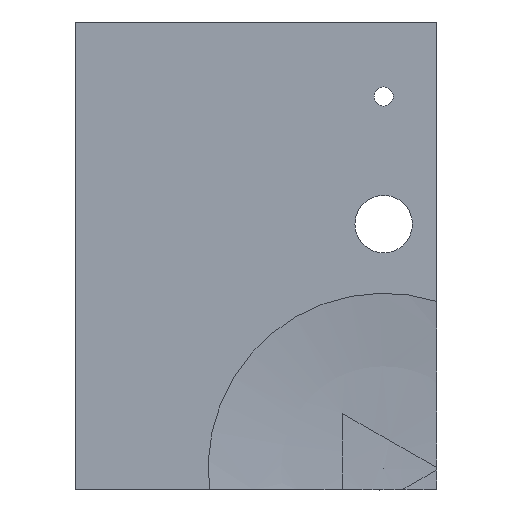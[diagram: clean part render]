
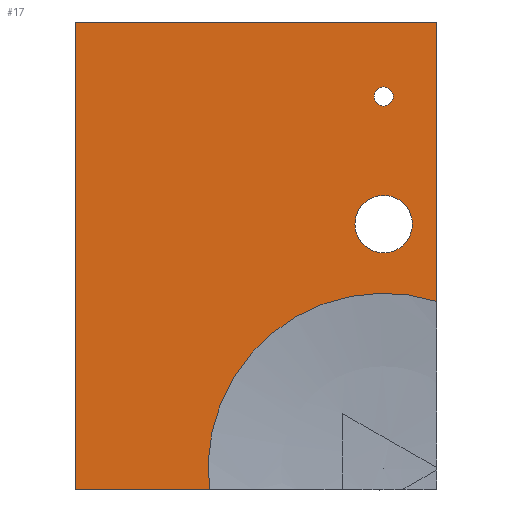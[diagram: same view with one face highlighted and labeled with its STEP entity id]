
A CAD part, top view. The second image highlights one B-rep face of the part: STEP entity #17.
In plain terms, the highlighted planar face has unit normal (0, 0, 1).
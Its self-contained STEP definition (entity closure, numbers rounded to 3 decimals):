
#17 = ADVANCED_FACE('',(#18,#158,#193),#33,.T.);
#18 = FACE_BOUND('',#19,.T.);
#19 = EDGE_LOOP('',(#20,#56,#82,#108,#134));
#20 = ORIENTED_EDGE('',*,*,#21,.F.);
#21 = EDGE_CURVE('',#22,#24,#26,.T.);
#22 = VERTEX_POINT('',#23);
#23 = CARTESIAN_POINT('',(5.,-27.276,13.5));
#24 = VERTEX_POINT('',#25);
#25 = CARTESIAN_POINT('',(-16.378,-45.,13.5));
#26 = SURFACE_CURVE('',#27,(#32,#44),.PCURVE_S1.);
#27 = CIRCLE('',#28,16.5);
#28 = AXIS2_PLACEMENT_3D('',#29,#30,#31);
#29 = CARTESIAN_POINT('',(0.,-43.,13.5));
#30 = DIRECTION('',(0.,0.,1.));
#31 = DIRECTION('',(1.,0.,-0.));
#32 = PCURVE('',#33,#38);
#33 = PLANE('',#34);
#34 = AXIS2_PLACEMENT_3D('',#35,#36,#37);
#35 = CARTESIAN_POINT('',(-44.,-68.,13.5));
#36 = DIRECTION('',(0.,0.,1.));
#37 = DIRECTION('',(1.,0.,-0.));
#38 = DEFINITIONAL_REPRESENTATION('',(#39),#43);
#39 = CIRCLE('',#40,16.5);
#40 = AXIS2_PLACEMENT_2D('',#41,#42);
#41 = CARTESIAN_POINT('',(44.,25.));
#42 = DIRECTION('',(1.,0.));
#43 = ( GEOMETRIC_REPRESENTATION_CONTEXT(2) 
PARAMETRIC_REPRESENTATION_CONTEXT() REPRESENTATION_CONTEXT('2D SPACE',''
  ) );
#44 = PCURVE('',#45,#50);
#45 = SPHERICAL_SURFACE('',#46,124.3);
#46 = AXIS2_PLACEMENT_3D('',#47,#48,#49);
#47 = CARTESIAN_POINT('',(0.,-43.,136.7));
#48 = DIRECTION('',(0.,0.,1.));
#49 = DIRECTION('',(1.,0.,-0.));
#50 = DEFINITIONAL_REPRESENTATION('',(#51),#55);
#51 = LINE('',#52,#53);
#52 = CARTESIAN_POINT('',(0.,-1.438));
#53 = VECTOR('',#54,1.);
#54 = DIRECTION('',(1.,0.));
#55 = ( GEOMETRIC_REPRESENTATION_CONTEXT(2) 
PARAMETRIC_REPRESENTATION_CONTEXT() REPRESENTATION_CONTEXT('2D SPACE',''
  ) );
#56 = ORIENTED_EDGE('',*,*,#57,.T.);
#57 = EDGE_CURVE('',#22,#58,#60,.T.);
#58 = VERTEX_POINT('',#59);
#59 = CARTESIAN_POINT('',(5.,-1.,13.5));
#60 = SURFACE_CURVE('',#61,(#65,#71),.PCURVE_S1.);
#61 = LINE('',#62,#63);
#62 = CARTESIAN_POINT('',(5.,-56.5,13.5));
#63 = VECTOR('',#64,1.);
#64 = DIRECTION('',(0.,1.,0.));
#65 = PCURVE('',#33,#66);
#66 = DEFINITIONAL_REPRESENTATION('',(#67),#70);
#67 = B_SPLINE_CURVE_WITH_KNOTS('',1,(#68,#69),.UNSPECIFIED.,.F.,.F.,(2,
    2),(11.5,55.5),.PIECEWISE_BEZIER_KNOTS.);
#68 = CARTESIAN_POINT('',(49.,23.));
#69 = CARTESIAN_POINT('',(49.,67.));
#70 = ( GEOMETRIC_REPRESENTATION_CONTEXT(2) 
PARAMETRIC_REPRESENTATION_CONTEXT() REPRESENTATION_CONTEXT('2D SPACE',''
  ) );
#71 = PCURVE('',#72,#77);
#72 = PLANE('',#73);
#73 = AXIS2_PLACEMENT_3D('',#74,#75,#76);
#74 = CARTESIAN_POINT('',(5.,-45.,9.));
#75 = DIRECTION('',(1.,0.,0.));
#76 = DIRECTION('',(0.,0.,1.));
#77 = DEFINITIONAL_REPRESENTATION('',(#78),#81);
#78 = B_SPLINE_CURVE_WITH_KNOTS('',1,(#79,#80),.UNSPECIFIED.,.F.,.F.,(2,
    2),(11.5,55.5),.PIECEWISE_BEZIER_KNOTS.);
#79 = CARTESIAN_POINT('',(4.5,0.));
#80 = CARTESIAN_POINT('',(4.5,-44.));
#81 = ( GEOMETRIC_REPRESENTATION_CONTEXT(2) 
PARAMETRIC_REPRESENTATION_CONTEXT() REPRESENTATION_CONTEXT('2D SPACE',''
  ) );
#82 = ORIENTED_EDGE('',*,*,#83,.T.);
#83 = EDGE_CURVE('',#58,#84,#86,.T.);
#84 = VERTEX_POINT('',#85);
#85 = CARTESIAN_POINT('',(-29.,-1.,13.5));
#86 = SURFACE_CURVE('',#87,(#91,#97),.PCURVE_S1.);
#87 = LINE('',#88,#89);
#88 = CARTESIAN_POINT('',(-36.5,-1.,13.5));
#89 = VECTOR('',#90,1.);
#90 = DIRECTION('',(-1.,0.,0.));
#91 = PCURVE('',#33,#92);
#92 = DEFINITIONAL_REPRESENTATION('',(#93),#96);
#93 = B_SPLINE_CURVE_WITH_KNOTS('',1,(#94,#95),.UNSPECIFIED.,.F.,.F.,(2,
    2),(-41.5,-7.5),.PIECEWISE_BEZIER_KNOTS.);
#94 = CARTESIAN_POINT('',(49.,67.));
#95 = CARTESIAN_POINT('',(15.,67.));
#96 = ( GEOMETRIC_REPRESENTATION_CONTEXT(2) 
PARAMETRIC_REPRESENTATION_CONTEXT() REPRESENTATION_CONTEXT('2D SPACE',''
  ) );
#97 = PCURVE('',#98,#103);
#98 = PLANE('',#99);
#99 = AXIS2_PLACEMENT_3D('',#100,#101,#102);
#100 = CARTESIAN_POINT('',(-29.,-1.,9.));
#101 = DIRECTION('',(0.,1.,0.));
#102 = DIRECTION('',(0.,0.,1.));
#103 = DEFINITIONAL_REPRESENTATION('',(#104),#107);
#104 = B_SPLINE_CURVE_WITH_KNOTS('',1,(#105,#106),.UNSPECIFIED.,.F.,.F.,
  (2,2),(-41.5,-7.5),.PIECEWISE_BEZIER_KNOTS.);
#105 = CARTESIAN_POINT('',(4.5,34.));
#106 = CARTESIAN_POINT('',(4.5,0.));
#107 = ( GEOMETRIC_REPRESENTATION_CONTEXT(2) 
PARAMETRIC_REPRESENTATION_CONTEXT() REPRESENTATION_CONTEXT('2D SPACE',''
  ) );
#108 = ORIENTED_EDGE('',*,*,#109,.F.);
#109 = EDGE_CURVE('',#110,#84,#112,.T.);
#110 = VERTEX_POINT('',#111);
#111 = CARTESIAN_POINT('',(-29.,-45.,13.5));
#112 = SURFACE_CURVE('',#113,(#117,#123),.PCURVE_S1.);
#113 = LINE('',#114,#115);
#114 = CARTESIAN_POINT('',(-29.,-56.5,13.5));
#115 = VECTOR('',#116,1.);
#116 = DIRECTION('',(0.,1.,0.));
#117 = PCURVE('',#33,#118);
#118 = DEFINITIONAL_REPRESENTATION('',(#119),#122);
#119 = B_SPLINE_CURVE_WITH_KNOTS('',1,(#120,#121),.UNSPECIFIED.,.F.,.F.,
  (2,2),(11.5,55.5),.PIECEWISE_BEZIER_KNOTS.);
#120 = CARTESIAN_POINT('',(15.,23.));
#121 = CARTESIAN_POINT('',(15.,67.));
#122 = ( GEOMETRIC_REPRESENTATION_CONTEXT(2) 
PARAMETRIC_REPRESENTATION_CONTEXT() REPRESENTATION_CONTEXT('2D SPACE',''
  ) );
#123 = PCURVE('',#124,#129);
#124 = PLANE('',#125);
#125 = AXIS2_PLACEMENT_3D('',#126,#127,#128);
#126 = CARTESIAN_POINT('',(-29.,-45.,9.));
#127 = DIRECTION('',(1.,0.,0.));
#128 = DIRECTION('',(0.,0.,1.));
#129 = DEFINITIONAL_REPRESENTATION('',(#130),#133);
#130 = B_SPLINE_CURVE_WITH_KNOTS('',1,(#131,#132),.UNSPECIFIED.,.F.,.F.,
  (2,2),(11.5,55.5),.PIECEWISE_BEZIER_KNOTS.);
#131 = CARTESIAN_POINT('',(4.5,0.));
#132 = CARTESIAN_POINT('',(4.5,-44.));
#133 = ( GEOMETRIC_REPRESENTATION_CONTEXT(2) 
PARAMETRIC_REPRESENTATION_CONTEXT() REPRESENTATION_CONTEXT('2D SPACE',''
  ) );
#134 = ORIENTED_EDGE('',*,*,#135,.F.);
#135 = EDGE_CURVE('',#24,#110,#136,.T.);
#136 = SURFACE_CURVE('',#137,(#141,#147),.PCURVE_S1.);
#137 = LINE('',#138,#139);
#138 = CARTESIAN_POINT('',(-36.5,-45.,13.5));
#139 = VECTOR('',#140,1.);
#140 = DIRECTION('',(-1.,0.,0.));
#141 = PCURVE('',#33,#142);
#142 = DEFINITIONAL_REPRESENTATION('',(#143),#146);
#143 = B_SPLINE_CURVE_WITH_KNOTS('',1,(#144,#145),.UNSPECIFIED.,.F.,.F.,
  (2,2),(-41.5,-7.5),.PIECEWISE_BEZIER_KNOTS.);
#144 = CARTESIAN_POINT('',(49.,23.));
#145 = CARTESIAN_POINT('',(15.,23.));
#146 = ( GEOMETRIC_REPRESENTATION_CONTEXT(2) 
PARAMETRIC_REPRESENTATION_CONTEXT() REPRESENTATION_CONTEXT('2D SPACE',''
  ) );
#147 = PCURVE('',#148,#153);
#148 = PLANE('',#149);
#149 = AXIS2_PLACEMENT_3D('',#150,#151,#152);
#150 = CARTESIAN_POINT('',(-29.,-45.,9.));
#151 = DIRECTION('',(0.,1.,0.));
#152 = DIRECTION('',(0.,0.,1.));
#153 = DEFINITIONAL_REPRESENTATION('',(#154),#157);
#154 = B_SPLINE_CURVE_WITH_KNOTS('',1,(#155,#156),.UNSPECIFIED.,.F.,.F.,
  (2,2),(-41.5,-7.5),.PIECEWISE_BEZIER_KNOTS.);
#155 = CARTESIAN_POINT('',(4.5,34.));
#156 = CARTESIAN_POINT('',(4.5,0.));
#157 = ( GEOMETRIC_REPRESENTATION_CONTEXT(2) 
PARAMETRIC_REPRESENTATION_CONTEXT() REPRESENTATION_CONTEXT('2D SPACE',''
  ) );
#158 = FACE_BOUND('',#159,.T.);
#159 = EDGE_LOOP('',(#160));
#160 = ORIENTED_EDGE('',*,*,#161,.T.);
#161 = EDGE_CURVE('',#162,#162,#164,.T.);
#162 = VERTEX_POINT('',#163);
#163 = CARTESIAN_POINT('',(2.7,-20.,13.5));
#164 = SURFACE_CURVE('',#165,(#170,#181),.PCURVE_S1.);
#165 = CIRCLE('',#166,2.7);
#166 = AXIS2_PLACEMENT_3D('',#167,#168,#169);
#167 = CARTESIAN_POINT('',(0.,-20.,13.5));
#168 = DIRECTION('',(0.,0.,-1.));
#169 = DIRECTION('',(1.,0.,0.));
#170 = PCURVE('',#33,#171);
#171 = DEFINITIONAL_REPRESENTATION('',(#172),#180);
#172 = ( BOUNDED_CURVE() B_SPLINE_CURVE(2,(#173,#174,#175,#176,#177,#178
,#179),.UNSPECIFIED.,.T.,.F.) B_SPLINE_CURVE_WITH_KNOTS((1,2,2,2,2,1),(
    -2.094,0.,2.094,4.189,6.283,
8.378),.UNSPECIFIED.) CURVE() GEOMETRIC_REPRESENTATION_ITEM() 
RATIONAL_B_SPLINE_CURVE((1.,0.5,1.,0.5,1.,0.5,1.)) REPRESENTATION_ITEM(
  '') );
#173 = CARTESIAN_POINT('',(46.7,48.));
#174 = CARTESIAN_POINT('',(46.7,43.323));
#175 = CARTESIAN_POINT('',(42.65,45.662));
#176 = CARTESIAN_POINT('',(38.6,48.));
#177 = CARTESIAN_POINT('',(42.65,50.338));
#178 = CARTESIAN_POINT('',(46.7,52.677));
#179 = CARTESIAN_POINT('',(46.7,48.));
#180 = ( GEOMETRIC_REPRESENTATION_CONTEXT(2) 
PARAMETRIC_REPRESENTATION_CONTEXT() REPRESENTATION_CONTEXT('2D SPACE',''
  ) );
#181 = PCURVE('',#182,#187);
#182 = CYLINDRICAL_SURFACE('',#183,2.7);
#183 = AXIS2_PLACEMENT_3D('',#184,#185,#186);
#184 = CARTESIAN_POINT('',(0.,-20.,2.));
#185 = DIRECTION('',(-0.,-0.,-1.));
#186 = DIRECTION('',(1.,0.,0.));
#187 = DEFINITIONAL_REPRESENTATION('',(#188),#192);
#188 = LINE('',#189,#190);
#189 = CARTESIAN_POINT('',(0.,-11.5));
#190 = VECTOR('',#191,1.);
#191 = DIRECTION('',(1.,-0.));
#192 = ( GEOMETRIC_REPRESENTATION_CONTEXT(2) 
PARAMETRIC_REPRESENTATION_CONTEXT() REPRESENTATION_CONTEXT('2D SPACE',''
  ) );
#193 = FACE_BOUND('',#194,.T.);
#194 = EDGE_LOOP('',(#195));
#195 = ORIENTED_EDGE('',*,*,#196,.T.);
#196 = EDGE_CURVE('',#197,#197,#199,.T.);
#197 = VERTEX_POINT('',#198);
#198 = CARTESIAN_POINT('',(0.9,-8.,13.5));
#199 = SURFACE_CURVE('',#200,(#205,#216),.PCURVE_S1.);
#200 = CIRCLE('',#201,0.9);
#201 = AXIS2_PLACEMENT_3D('',#202,#203,#204);
#202 = CARTESIAN_POINT('',(0.,-8.,13.5));
#203 = DIRECTION('',(0.,0.,-1.));
#204 = DIRECTION('',(1.,0.,0.));
#205 = PCURVE('',#33,#206);
#206 = DEFINITIONAL_REPRESENTATION('',(#207),#215);
#207 = ( BOUNDED_CURVE() B_SPLINE_CURVE(2,(#208,#209,#210,#211,#212,#213
,#214),.UNSPECIFIED.,.T.,.F.) B_SPLINE_CURVE_WITH_KNOTS((1,2,2,2,2,1),(
    -2.094,0.,2.094,4.189,6.283,
8.378),.UNSPECIFIED.) CURVE() GEOMETRIC_REPRESENTATION_ITEM() 
RATIONAL_B_SPLINE_CURVE((1.,0.5,1.,0.5,1.,0.5,1.)) REPRESENTATION_ITEM(
  '') );
#208 = CARTESIAN_POINT('',(44.9,60.));
#209 = CARTESIAN_POINT('',(44.9,58.441));
#210 = CARTESIAN_POINT('',(43.55,59.221));
#211 = CARTESIAN_POINT('',(42.2,60.));
#212 = CARTESIAN_POINT('',(43.55,60.779));
#213 = CARTESIAN_POINT('',(44.9,61.559));
#214 = CARTESIAN_POINT('',(44.9,60.));
#215 = ( GEOMETRIC_REPRESENTATION_CONTEXT(2) 
PARAMETRIC_REPRESENTATION_CONTEXT() REPRESENTATION_CONTEXT('2D SPACE',''
  ) );
#216 = PCURVE('',#217,#222);
#217 = CYLINDRICAL_SURFACE('',#218,0.9);
#218 = AXIS2_PLACEMENT_3D('',#219,#220,#221);
#219 = CARTESIAN_POINT('',(0.,-8.,12.));
#220 = DIRECTION('',(-0.,-0.,-1.));
#221 = DIRECTION('',(1.,0.,0.));
#222 = DEFINITIONAL_REPRESENTATION('',(#223),#227);
#223 = LINE('',#224,#225);
#224 = CARTESIAN_POINT('',(0.,-1.5));
#225 = VECTOR('',#226,1.);
#226 = DIRECTION('',(1.,-0.));
#227 = ( GEOMETRIC_REPRESENTATION_CONTEXT(2) 
PARAMETRIC_REPRESENTATION_CONTEXT() REPRESENTATION_CONTEXT('2D SPACE',''
  ) );
